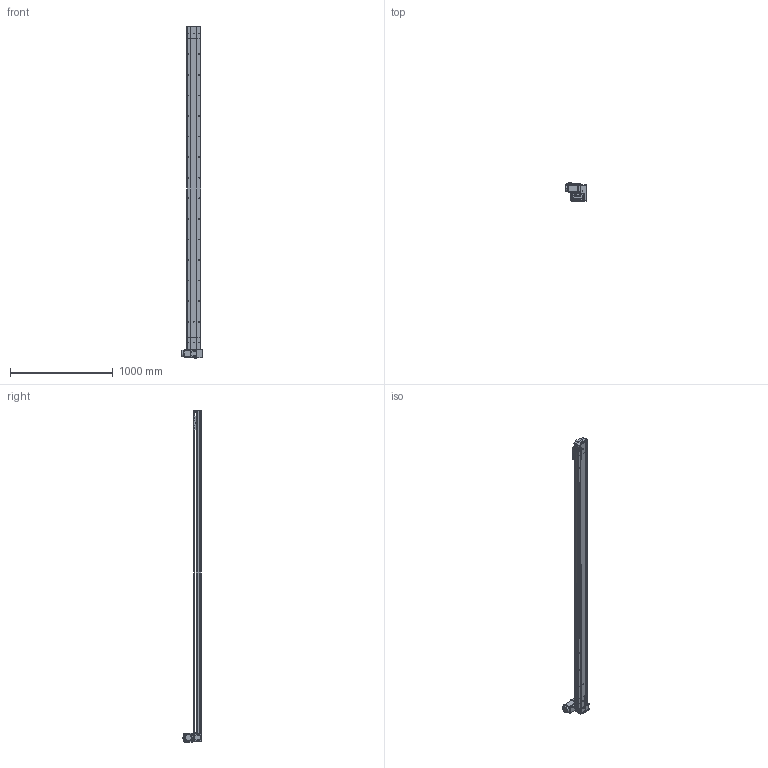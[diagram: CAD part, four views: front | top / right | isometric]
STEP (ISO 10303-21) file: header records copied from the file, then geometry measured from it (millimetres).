
FILE_DESCRIPTION (( 'STEP AP214' ), '1' );
FILE_NAME ('D14 TBH LT S2900.STEP', '2010-06-29T14:43:14', ( 'Conseil Régional Haute-Normandie' ), ( 'Conseil Régional Haute-Normandie' ), 'SwSTEP 2.0', 'SolidWorks 2010', '' );
FILE_SCHEMA (( 'AUTOMOTIVE_DESIGN' ));
Length unit declared in the file: millimetre
Products named in the file (39): Vis M5 L16-2_Default; Cvis M5 L70_Default; vis M5 L5_Default; vis M5 L12_Default; guide D14; Chariot D14; chariot D14B_Default; Couroie_Default; D14 couroie L2900_Default; corpl tail D14_Default; poulie tail_Default; vis M5 L8 90°_Default; couvercle D14 course L2900_Default; D14 TBH LT S2900; couvercle D14_Default; tete d''axe haut D14; corpl 2900_Default; Tail D14B_Default; Arbre+rail tail D14; vis M5 L16_Default; Rail + couroie D14 Course 2900 ; plaque de  bout tail D14_Default; renvoi LH_Default; codeur 90BLDC100-640; Plaque racord D14_Default; Cache arbre_Default; Cache_Default; D14 TB H LT_Default; couvercle D14 head_Default; Arbre+rail head D14; Conecteur_Default; avant 90BLDC100A-640; Moteur motionking 90BLDC100A-640; corps 90BLDC100A-640; corp head D14_Default; couroie 2_Default; poulie head_Default; plaque de  bout head D14 LT_Default; Conecteur2_Default
Assembly tree (68 placements, depth 4):
  D14 TBH LT S2900
    Tail D14B_Default
      Couroie_Default
      Arbre+rail tail D14
      vis M5 L16_Default  x2
      poulie tail_Default
      couvercle D14_Default
      vis M5 L12_Default  x4
      tete d''axe haut D14
      corpl tail D14_Default
      vis M5 L8 90°_Default  x2
      plaque de  bout tail D14_Default
    D14 TB H LT_Default
      Cache arbre_Default
      Cvis M5 L70_Default  x4
      vis M5 L5_Default  x2
      vis M5 L12_Default  x12
      Cache_Default  x2
      Moteur motionking 90BLDC100A-640
        codeur 90BLDC100-640
        Conecteur2_Default
        avant 90BLDC100A-640
        Conecteur_Default
        corps 90BLDC100A-640
      couroie 2_Default
      Arbre+rail head D14
      Vis M5 L16-2_Default  x4
      Plaque racord D14_Default
      couvercle D14 head_Default
      corp head D14_Default
      renvoi LH_Default
      poulie head_Default
      plaque de  bout head D14 LT_Default
    D14 couroie L2900_Default
      Rail + couroie D14 Course 2900 
      corpl 2900_Default
      couvercle D14 course L2900_Default
    chariot D14B_Default
      vis M5 L12_Default  x4
      Chariot D14
      guide D14  x2
Bounding box: 207.2 x 189.1 x 3225.75 mm (x, y, z)
Volume: 11858253.3 mm3; surface area: 4333119.9 mm2
Topology: 92 solids, 92 shells, 2757 faces, 6719 edges, 4338 vertices
Faces by surface type: plane 1621, cylinder 823, bspline 136, torus 89, cone 84, sphere 4
Entity records: 82916 total; most frequent: CARTESIAN_POINT 24153, ORIENTED_EDGE 10298, DIRECTION 10232, EDGE_CURVE 5149, AXIS2_PLACEMENT_3D 3431, VERTEX_POINT 3388, VECTOR 3370, LINE 3370
